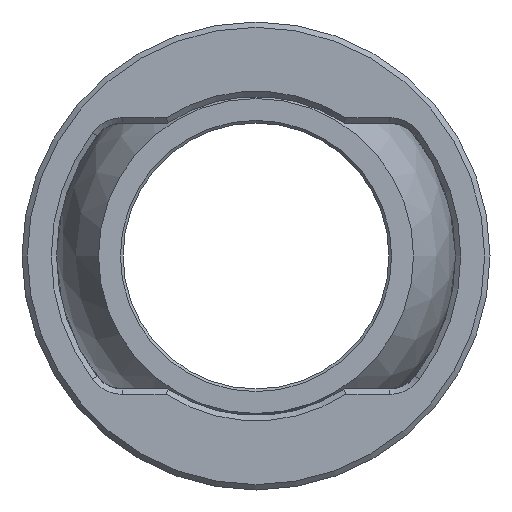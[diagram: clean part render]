
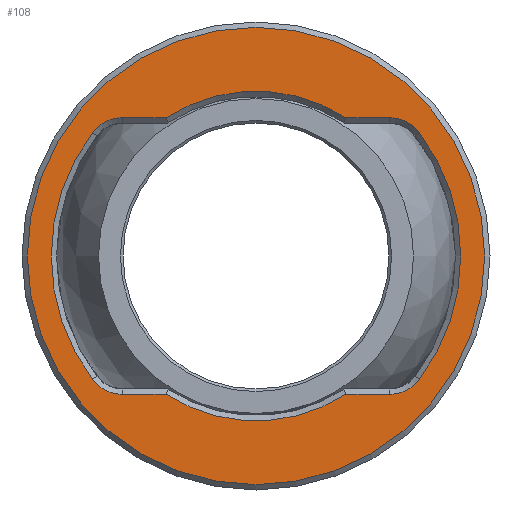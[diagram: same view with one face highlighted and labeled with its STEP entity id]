
A CAD part, front view. The second image highlights one B-rep face of the part: STEP entity #108.
In plain terms, the highlighted planar face has unit normal (0, -1, 0).
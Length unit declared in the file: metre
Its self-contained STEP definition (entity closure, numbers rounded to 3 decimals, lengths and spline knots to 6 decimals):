
#108=ADVANCED_FACE('',(#247,#248),#249,.F.);
#247=FACE_OUTER_BOUND('',#432,.T.);
#248=FACE_BOUND('',#433,.T.);
#249=PLANE('',#434);
#432=EDGE_LOOP('',(#660));
#433=EDGE_LOOP('',(#661,#662,#663,#664,#665,#666,#667,#668,#669,#670,#671,#672));
#434=AXIS2_PLACEMENT_3D('',#673,#674,#675);
#660=ORIENTED_EDGE('',*,*,#980,.F.);
#661=ORIENTED_EDGE('',*,*,#981,.T.);
#662=ORIENTED_EDGE('',*,*,#974,.T.);
#663=ORIENTED_EDGE('',*,*,#982,.T.);
#664=ORIENTED_EDGE('',*,*,#983,.T.);
#665=ORIENTED_EDGE('',*,*,#984,.T.);
#666=ORIENTED_EDGE('',*,*,#985,.T.);
#667=ORIENTED_EDGE('',*,*,#986,.T.);
#668=ORIENTED_EDGE('',*,*,#987,.T.);
#669=ORIENTED_EDGE('',*,*,#967,.T.);
#670=ORIENTED_EDGE('',*,*,#988,.T.);
#671=ORIENTED_EDGE('',*,*,#989,.T.);
#672=ORIENTED_EDGE('',*,*,#929,.T.);
#673=CARTESIAN_POINT('',(0.557004,0.437609,0.0));
#674=DIRECTION('',(0.0,1.0,0.0));
#675=DIRECTION('',(0.0,0.0,1.0));
#929=EDGE_CURVE('',#1061,#1066,#1068,.T.);
#967=EDGE_CURVE('',#1132,#1130,#1133,.T.);
#974=EDGE_CURVE('',#1143,#1141,#1144,.T.);
#980=EDGE_CURVE('',#1151,#1151,#1152,.T.);
#981=EDGE_CURVE('',#1066,#1143,#1153,.T.);
#982=EDGE_CURVE('',#1141,#1154,#1155,.T.);
#983=EDGE_CURVE('',#1154,#1156,#1157,.T.);
#984=EDGE_CURVE('',#1156,#1158,#1159,.T.);
#985=EDGE_CURVE('',#1158,#1160,#1161,.T.);
#986=EDGE_CURVE('',#1160,#1162,#1163,.T.);
#987=EDGE_CURVE('',#1162,#1132,#1164,.T.);
#988=EDGE_CURVE('',#1130,#1165,#1166,.T.);
#989=EDGE_CURVE('',#1165,#1061,#1167,.T.);
#1061=VERTEX_POINT('',#1254);
#1066=VERTEX_POINT('',#1260);
#1068=CIRCLE('',#1263,0.0385);
#1130=VERTEX_POINT('',#1395);
#1132=VERTEX_POINT('',#1400);
#1133=CIRCLE('',#1401,0.031);
#1141=VERTEX_POINT('',#1412);
#1143=VERTEX_POINT('',#1417);
#1144=LINE('',#1418,#1419);
#1151=VERTEX_POINT('',#1428);
#1152=CIRCLE('',#1429,0.043);
#1153=CIRCLE('',#1430,0.007);
#1154=VERTEX_POINT('',#1431);
#1155=CIRCLE('',#1432,0.031);
#1156=VERTEX_POINT('',#1433);
#1157=LINE('',#1434,#1435);
#1158=VERTEX_POINT('',#1436);
#1159=CIRCLE('',#1437,0.007);
#1160=VERTEX_POINT('',#1438);
#1161=CIRCLE('',#1439,0.0385);
#1162=VERTEX_POINT('',#1440);
#1163=CIRCLE('',#1441,0.007);
#1164=LINE('',#1442,#1443);
#1165=VERTEX_POINT('',#1444);
#1166=LINE('',#1445,#1446);
#1167=CIRCLE('',#1447,0.007);
#1254=CARTESIAN_POINT('',(0.557296,0.437609,-0.023222));
#1260=CARTESIAN_POINT('',(0.557296,0.437609,0.023222));
#1263=AXIS2_PLACEMENT_3D('',#1556,#1557,#1558);
#1395=CARTESIAN_POINT('',(0.571122,0.437609,-0.026));
#1400=CARTESIAN_POINT('',(0.604886,0.437609,-0.026));
#1401=AXIS2_PLACEMENT_3D('',#1619,#1620,#1621);
#1412=CARTESIAN_POINT('',(0.571122,0.437609,0.026));
#1417=CARTESIAN_POINT('',(0.562879,0.437609,0.026));
#1418=CARTESIAN_POINT('',(0.569674,0.437609,0.026));
#1419=VECTOR('',#1628,1.0);
#1428=CARTESIAN_POINT('',(0.588004,0.437609,0.043));
#1429=AXIS2_PLACEMENT_3D('',#1634,#1635,#1636);
#1430=AXIS2_PLACEMENT_3D('',#1637,#1638,#1639);
#1431=CARTESIAN_POINT('',(0.604886,0.437609,0.026));
#1432=AXIS2_PLACEMENT_3D('',#1640,#1641,#1642);
#1433=CARTESIAN_POINT('',(0.613129,0.437609,0.026));
#1434=CARTESIAN_POINT('',(0.613129,0.437609,0.026));
#1435=VECTOR('',#1643,1.0);
#1436=CARTESIAN_POINT('',(0.618712,0.437609,0.023222));
#1437=AXIS2_PLACEMENT_3D('',#1644,#1645,#1646);
#1438=CARTESIAN_POINT('',(0.618712,0.437609,-0.023222));
#1439=AXIS2_PLACEMENT_3D('',#1647,#1648,#1649);
#1440=CARTESIAN_POINT('',(0.613129,0.437609,-0.026));
#1441=AXIS2_PLACEMENT_3D('',#1650,#1651,#1652);
#1442=CARTESIAN_POINT('',(0.606334,0.437609,-0.026));
#1443=VECTOR('',#1653,1.0);
#1444=CARTESIAN_POINT('',(0.562879,0.437609,-0.026));
#1445=CARTESIAN_POINT('',(0.562879,0.437609,-0.026));
#1446=VECTOR('',#1654,1.0);
#1447=AXIS2_PLACEMENT_3D('',#1655,#1656,#1657);
#1556=CARTESIAN_POINT('',(0.588004,0.437609,0.));
#1557=DIRECTION('',(0.0,1.0,0.0));
#1558=DIRECTION('',(0.0,0.0,1.0));
#1619=CARTESIAN_POINT('',(0.588004,0.437609,0.0));
#1620=DIRECTION('',(0.0,1.0,0.0));
#1621=DIRECTION('',(0.0,0.0,1.0));
#1628=DIRECTION('',(1.0,0.0,0.0));
#1634=CARTESIAN_POINT('',(0.588004,0.437609,0.0));
#1635=DIRECTION('',(0.0,1.0,0.0));
#1636=DIRECTION('',(0.0,0.0,1.0));
#1637=CARTESIAN_POINT('',(0.562879,0.437609,0.019));
#1638=DIRECTION('',(0.0,1.0,0.0));
#1639=DIRECTION('',(0.0,0.0,1.0));
#1640=CARTESIAN_POINT('',(0.588004,0.437609,0.0));
#1641=DIRECTION('',(0.0,1.0,0.0));
#1642=DIRECTION('',(0.0,0.0,1.0));
#1643=DIRECTION('',(1.0,0.0,0.0));
#1644=CARTESIAN_POINT('',(0.613129,0.437609,0.019));
#1645=DIRECTION('',(0.0,1.0,0.0));
#1646=DIRECTION('',(0.0,0.0,1.0));
#1647=CARTESIAN_POINT('',(0.588004,0.437609,0.));
#1648=DIRECTION('',(0.0,1.0,0.0));
#1649=DIRECTION('',(0.0,0.0,1.0));
#1650=CARTESIAN_POINT('',(0.613129,0.437609,-0.019));
#1651=DIRECTION('',(0.0,1.0,0.0));
#1652=DIRECTION('',(0.0,0.0,1.0));
#1653=DIRECTION('',(-1.0,0.0,0.0));
#1654=DIRECTION('',(-1.0,0.0,0.0));
#1655=CARTESIAN_POINT('',(0.562879,0.437609,-0.019));
#1656=DIRECTION('',(0.0,1.0,0.0));
#1657=DIRECTION('',(0.0,0.0,1.0));
